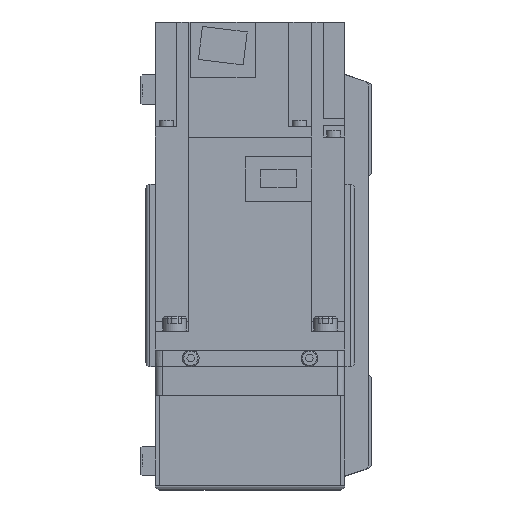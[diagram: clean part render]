
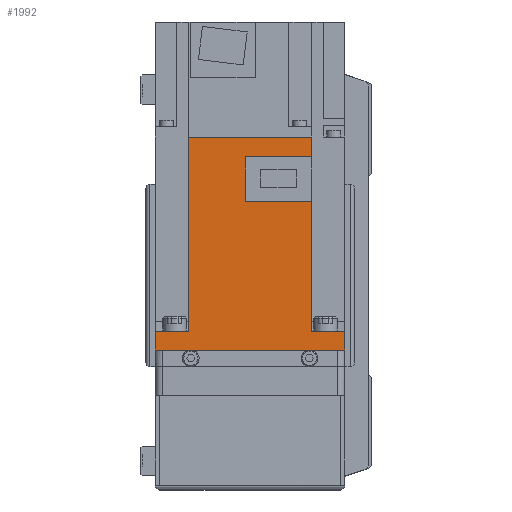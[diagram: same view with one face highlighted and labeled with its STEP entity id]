
A CAD part, left-side view. The second image highlights one B-rep face of the part: STEP entity #1992.
In plain terms, the highlighted planar face has unit normal (-1, 0, 0) as drawn and (1, 0, 0) by its records, which use the part's own axes.
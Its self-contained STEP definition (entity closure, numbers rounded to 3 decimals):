
#1992 = ADVANCED_FACE( '', ( #4603 ), #4604, .F. );
#4603 = FACE_OUTER_BOUND( '', #7973, .T. );
#4604 = PLANE( '', #7974 );
#7973 = EDGE_LOOP( '', ( #13660, #13661, #13662, #13663, #13664, #13665, #13666, #13667, #13668, #13669, #13670, #13671 ) );
#7974 = AXIS2_PLACEMENT_3D( '', #13672, #13673, #13674 );
#13660 = ORIENTED_EDGE( '', *, *, #20023, .F. );
#13661 = ORIENTED_EDGE( '', *, *, #21160, .F. );
#13662 = ORIENTED_EDGE( '', *, *, #20861, .F. );
#13663 = ORIENTED_EDGE( '', *, *, #20991, .T. );
#13664 = ORIENTED_EDGE( '', *, *, #21161, .F. );
#13665 = ORIENTED_EDGE( '', *, *, #21162, .T. );
#13666 = ORIENTED_EDGE( '', *, *, #20710, .T. );
#13667 = ORIENTED_EDGE( '', *, *, #21163, .F. );
#13668 = ORIENTED_EDGE( '', *, *, #21164, .F. );
#13669 = ORIENTED_EDGE( '', *, *, #21165, .F. );
#13670 = ORIENTED_EDGE( '', *, *, #21166, .F. );
#13671 = ORIENTED_EDGE( '', *, *, #19341, .F. );
#13672 = CARTESIAN_POINT( '', ( 40., 89.8, 40. ) );
#13673 = DIRECTION( '', ( -1., 0., 0. ) );
#13674 = DIRECTION( '', ( 0., 0., 1. ) );
#19341 = EDGE_CURVE( '', #23043, #23044, #23045, .T. );
#20023 = EDGE_CURVE( '', #24240, #23043, #24242, .T. );
#20710 = EDGE_CURVE( '', #25349, #25347, #25350, .T. );
#20861 = EDGE_CURVE( '', #25583, #25581, #25585, .T. );
#20991 = EDGE_CURVE( '', #25583, #25779, #25781, .T. );
#21160 = EDGE_CURVE( '', #25581, #24240, #26033, .T. );
#21161 = EDGE_CURVE( '', #26034, #25779, #26035, .T. );
#21162 = EDGE_CURVE( '', #26034, #25349, #26036, .T. );
#21163 = EDGE_CURVE( '', #26037, #25347, #26038, .T. );
#21164 = EDGE_CURVE( '', #26039, #26037, #26040, .T. );
#21165 = EDGE_CURVE( '', #26041, #26039, #26042, .T. );
#21166 = EDGE_CURVE( '', #23044, #26041, #26043, .T. );
#23043 = VERTEX_POINT( '', #28676 );
#23044 = VERTEX_POINT( '', #28677 );
#23045 = LINE( '', #28678, #28679 );
#24240 = VERTEX_POINT( '', #30467 );
#24242 = LINE( '', #30470, #30471 );
#25347 = VERTEX_POINT( '', #31960 );
#25349 = VERTEX_POINT( '', #31963 );
#25350 = LINE( '', #31964, #31965 );
#25581 = VERTEX_POINT( '', #32307 );
#25583 = VERTEX_POINT( '', #32310 );
#25585 = LINE( '', #32313, #32314 );
#25779 = VERTEX_POINT( '', #32596 );
#25781 = LINE( '', #32599, #32600 );
#26033 = LINE( '', #32955, #32956 );
#26034 = VERTEX_POINT( '', #32957 );
#26035 = LINE( '', #32958, #32959 );
#26036 = LINE( '', #32960, #32961 );
#26037 = VERTEX_POINT( '', #32962 );
#26038 = LINE( '', #32963, #32964 );
#26039 = VERTEX_POINT( '', #32965 );
#26040 = LINE( '', #32966, #32967 );
#26041 = VERTEX_POINT( '', #32968 );
#26042 = LINE( '', #32969, #32970 );
#26043 = LINE( '', #32971, #32972 );
#28676 = CARTESIAN_POINT( '', ( 40., 81.4, 1.8 ) );
#28677 = CARTESIAN_POINT( '', ( 40., 62.8, 1.8 ) );
#28678 = CARTESIAN_POINT( '', ( 40., 81.4, 1.8 ) );
#28679 = VECTOR( '', #36033, 1000. );
#30467 = CARTESIAN_POINT( '', ( 40., 81.4, -25.95 ) );
#30470 = CARTESIAN_POINT( '', ( 40., 81.4, -26. ) );
#30471 = VECTOR( '', #36939, 1000. );
#31960 = CARTESIAN_POINT( '', ( 40., 0., -40. ) );
#31963 = CARTESIAN_POINT( '', ( 40., 0., 40. ) );
#31964 = CARTESIAN_POINT( '', ( 40., 0., 40. ) );
#31965 = VECTOR( '', #37794, 1000. );
#32307 = CARTESIAN_POINT( '', ( 40., 89.8, -25.95 ) );
#32310 = CARTESIAN_POINT( '', ( 40., 89.8, 25.95 ) );
#32313 = CARTESIAN_POINT( '', ( 40., 89.8, 40. ) );
#32314 = VECTOR( '', #37992, 1000. );
#32596 = CARTESIAN_POINT( '', ( 40., 8., 25.95 ) );
#32599 = CARTESIAN_POINT( '', ( 40., 158., 25.95 ) );
#32600 = VECTOR( '', #38152, 1000. );
#32955 = CARTESIAN_POINT( '', ( 40., 158., -25.95 ) );
#32956 = VECTOR( '', #38365, 1000. );
#32957 = CARTESIAN_POINT( '', ( 40., 8., 40. ) );
#32958 = CARTESIAN_POINT( '', ( 40., 8., 40. ) );
#32959 = VECTOR( '', #38366, 1000. );
#32960 = CARTESIAN_POINT( '', ( 40., 89.8, 40. ) );
#32961 = VECTOR( '', #38367, 1000. );
#32962 = CARTESIAN_POINT( '', ( 40., 8., -40. ) );
#32963 = CARTESIAN_POINT( '', ( 40., 89.8, -40. ) );
#32964 = VECTOR( '', #38368, 1000. );
#32965 = CARTESIAN_POINT( '', ( 40., 8., -25.95 ) );
#32966 = CARTESIAN_POINT( '', ( 40., 8., 40. ) );
#32967 = VECTOR( '', #38369, 1000. );
#32968 = CARTESIAN_POINT( '', ( 40., 62.8, -25.95 ) );
#32969 = CARTESIAN_POINT( '', ( 40., 158., -25.95 ) );
#32970 = VECTOR( '', #38370, 1000. );
#32971 = CARTESIAN_POINT( '', ( 40., 62.8, 1.8 ) );
#32972 = VECTOR( '', #38371, 1000. );
#36033 = DIRECTION( '', ( 0., -1., 0. ) );
#36939 = DIRECTION( '', ( 0., 0., 1. ) );
#37794 = DIRECTION( '', ( 0., 0., -1. ) );
#37992 = DIRECTION( '', ( 0., 0., -1. ) );
#38152 = DIRECTION( '', ( 0., -1., 0. ) );
#38365 = DIRECTION( '', ( 0., -1., 0. ) );
#38366 = DIRECTION( '', ( 0., 0., -1. ) );
#38367 = DIRECTION( '', ( 0., -1., 0. ) );
#38368 = DIRECTION( '', ( 0., -1., 0. ) );
#38369 = DIRECTION( '', ( 0., 0., -1. ) );
#38370 = DIRECTION( '', ( 0., -1., 0. ) );
#38371 = DIRECTION( '', ( 0., 0., -1. ) );
